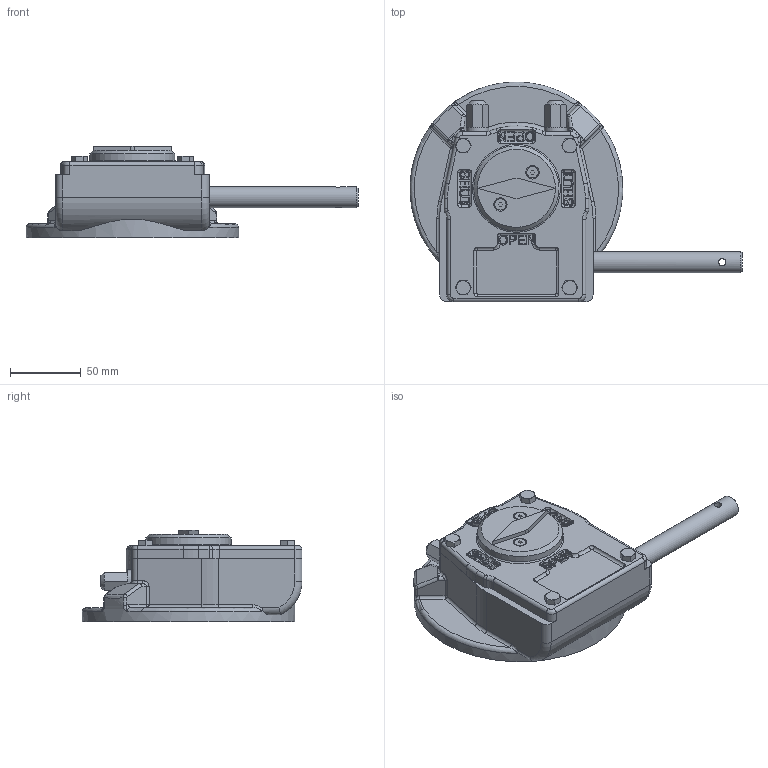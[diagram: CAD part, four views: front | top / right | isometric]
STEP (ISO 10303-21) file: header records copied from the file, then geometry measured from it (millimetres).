
FILE_DESCRIPTION( ( 'Unknown' ), '1' );
FILE_NAME( 'M:/Current Drawings/Internet datasheets/4 - STEP/AB215W LB LH.stp', 'Unknown', ( 'Unknown' ), ( 'Unknown' ), 'PSStep 15.0.49', 'Unknown', ' ' );
FILE_SCHEMA( ( 'AUTOMOTIVE_DESIGN { 1 0 10303 214 1 1 1 1 }' ) );
Length unit declared in the file: millimetre
Products named in the file (1): 21A0Z10000002
Bounding box: 234 x 155 x 64.59 mm (x, y, z)
Volume: 575997.9 mm3; surface area: 133699.5 mm2
Topology: 1 solids, 18 shells, 1242 faces, 3225 edges, 2023 vertices
Faces by surface type: plane 487, cylinder 317, cone 179, bspline 121, torus 93, extrusion 30, sphere 15
Full cylindrical faces by diameter (mm): 3.242 x4, 4 x2, 4.1 x2, 4.5 x2, 4.917 x8, 5.1 x1, 6 x4, 6.647 x4, 7 x4, 8 x2, 10.4 x1, 15 x2, 16 x2, 18 x2, 19 x1, 21 x2, 39.6 x2, 41.35 x2, 42.35 x2, 42.5 x2, 43 x1, 47 x1, 47.75 x1, 50 x1, 53.35 x1, 60 x1, 150 x1
Entity records: 66151 total; most frequent: CARTESIAN_POINT 28166, ORIENTED_EDGE 6066, DIRECTION 5446, EDGE_CURVE 3033, AXIS2_PLACEMENT_3D 2214, VERTEX_POINT 1970, EDGE_LOOP 1405, FACE_OUTER_BOUND 1313
